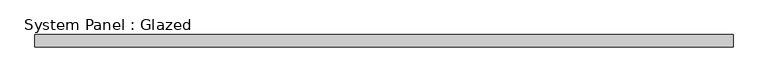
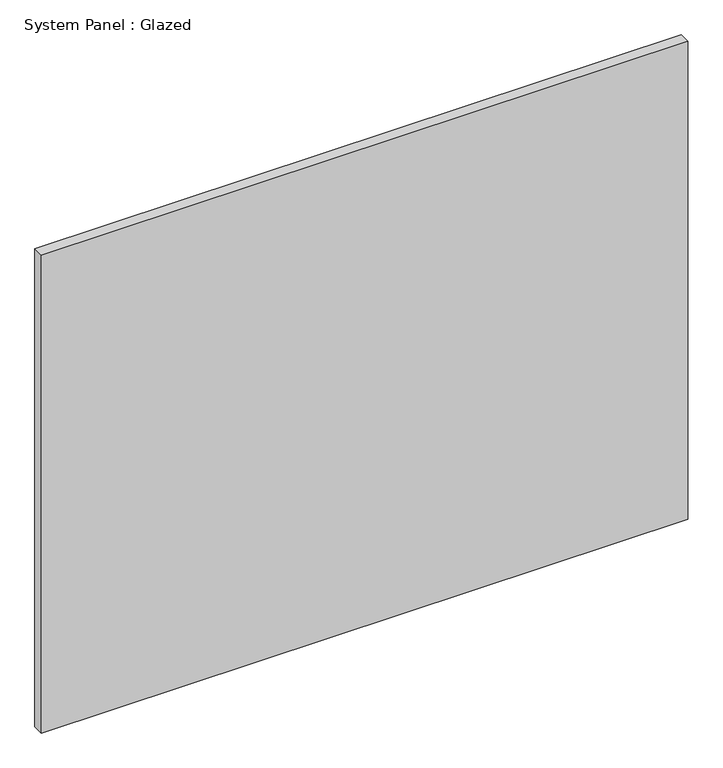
"""IFC4 building model written with IfcOpenShell, lengths in millimetres: plate geometry, System Panel : Glazed."""

import ifcopenshell
import ifcopenshell.guid

model = None  # the IFC model being written
_history = None  # IfcOwnerHistory: only IFC2X3 demands one
_inside = {}  # id of a spatial element -> (the spatial element, [elements in it])
_under = {}  # id of a project, library or spatial element -> (it, [spatial elements below it])
_declared = {}  # id of a project -> (the project, [libraries it declares])
_typed = {}  # id of a type object -> (the type object, [elements of that type])
_made_of = {}  # id of a material, layer set ... -> (it, [elements and type objects made of it])


def new_model(schema):
    """Start an empty IFC model of exactly this schema.

    Asked for "IFC4X3", IfcOpenShell would pick the latest addendum, in which some entities
    have other attributes; the version numbers below select the first issue.
    IFC2X3 requires an IfcOwnerHistory on every rooted entity: one is made here for all.
    """
    global model, _history
    if schema == "IFC4X3":
        model = ifcopenshell.file(schema_version=(4, 3, 0, 0))
    else:
        model = ifcopenshell.file(schema=schema)
    _inside.clear()
    _under.clear()
    _declared.clear()
    _typed.clear()
    _made_of.clear()
    _history = None
    if model.schema == "IFC2X3":
        org = make("IfcOrganization", Name="unknown")
        user = make(
            "IfcPersonAndOrganization",
            ThePerson=make("IfcPerson", FamilyName="unknown"),
            TheOrganization=org,
        )
        app = make(
            "IfcApplication",
            ApplicationDeveloper=org,
            Version="unknown",
            ApplicationFullName="unknown",
            ApplicationIdentifier="unknown",
        )
        _history = make(
            "IfcOwnerHistory",
            OwningUser=user,
            OwningApplication=app,
            ChangeAction="ADDED",
            CreationDate=0,
        )
    return model


def make(cls, **values):
    """One entity of the class cls with the attributes given. An attribute that is None is left unset."""
    return model.create_entity(
        cls, **{name: value for name, value in values.items() if value is not None}
    )


def rooted(cls, **values):
    """An entity with a GlobalId (a new one), such as an element, a storey or a relation."""
    return make(cls, GlobalId=ifcopenshell.guid.new(), OwnerHistory=_history, **values)


def si_unit(unit_type, name, prefix=None):
    """IfcSIUnit, for example si_unit("LENGTHUNIT", "METRE", prefix="MILLI")."""
    return make("IfcSIUnit", UnitType=unit_type, Prefix=prefix, Name=name)


def assignment(units):
    """IfcUnitAssignment: the units of a project."""
    return None if units is None else make("IfcUnitAssignment", Units=units)


def point(xyz):
    """IfcCartesianPoint."""
    return None if xyz is None else make("IfcCartesianPoint", Coordinates=xyz)


def direction(xyz):
    """IfcDirection."""
    return None if xyz is None else make("IfcDirection", DirectionRatios=xyz)


def frame(location, z_axis=None, x_axis=None):
    """IfcAxis2Placement3D, a coordinate frame: its origin and axes. An axis left out is left unset."""
    return make(
        "IfcAxis2Placement3D",
        Location=point(location),
        Axis=direction(z_axis),
        RefDirection=direction(x_axis),
    )


def origin():
    """The frame at (0, 0, 0) with its axes left unset."""
    return frame((0.0, 0.0, 0.0))


def origin_with_axes():
    """The frame at (0, 0, 0) with the z axis (0, 0, 1) and the x axis (1, 0, 0) written out."""
    return frame((0.0, 0.0, 0.0), z_axis=(0.0, 0.0, 1.0), x_axis=(1.0, 0.0, 0.0))


def place(relative_to, where):
    """IfcLocalPlacement: puts the frame where relative to a parent placement (None: the world)."""
    return make(
        "IfcLocalPlacement", PlacementRelTo=relative_to, RelativePlacement=where
    )


def context(
    kind, dimensions, precision=None, world=None, true_north=None, identifier=None
):
    """IfcGeometricRepresentationContext, for example the 3D "Model" context."""
    return make(
        "IfcGeometricRepresentationContext",
        ContextIdentifier=identifier,
        ContextType=kind,
        CoordinateSpaceDimension=dimensions,
        Precision=precision,
        WorldCoordinateSystem=world,
        TrueNorth=true_north,
    )


def project(units=None, contexts=None):
    """IfcProject with its units and contexts."""
    return rooted(
        "IfcProject",
        Name="project",
        RepresentationContexts=contexts,
        UnitsInContext=assignment(units),
    )


def spatial(cls, under=None, at=None, **own):
    """A site, building, storey or space (cls), placed at a placement, below another one or the project."""
    s = rooted(cls, ObjectPlacement=at, **own)
    if under is not None:
        _under.setdefault(under.id(), (under, []))[1].append(s)
    return s


def polyline(points):
    """IfcPolyline through the points."""
    return make("IfcPolyline", Points=[point(p) for p in points])


def outline(outer, holes=None, kind="AREA"):
    """IfcArbitraryClosedProfileDef: a profile drawn as a closed curve; with holes, ...WithVoids."""
    if holes is None:
        return make("IfcArbitraryClosedProfileDef", ProfileType=kind, OuterCurve=outer)
    return make(
        "IfcArbitraryProfileDefWithVoids",
        ProfileType=kind,
        OuterCurve=outer,
        InnerCurves=holes,
    )


def extrude(swept, where, along, depth):
    """IfcExtrudedAreaSolid: the profile swept, set in the frame where, extruded along a direction by depth."""
    return make(
        "IfcExtrudedAreaSolid",
        SweptArea=swept,
        Position=where,
        ExtrudedDirection=direction(along),
        Depth=depth,
    )


def shape(context_of_items, identifier, shape_type, items):
    """IfcShapeRepresentation: the items that make up one representation, for example the "Body"."""
    return make(
        "IfcShapeRepresentation",
        ContextOfItems=context_of_items,
        RepresentationIdentifier=identifier,
        RepresentationType=shape_type,
        Items=items,
    )


def source(mapping_origin, context_of_items, identifier, shape_type, items):
    """IfcRepresentationMap: a shape defined once, which mapped items show again and again."""
    return make(
        "IfcRepresentationMap",
        MappingOrigin=mapping_origin,
        MappedRepresentation=shape(context_of_items, identifier, shape_type, items),
    )


def transform(
    local_origin,
    x_axis=None,
    y_axis=None,
    z_axis=None,
    scale=None,
    scale2=None,
    scale3=None,
    uniform=True,
):
    """IfcCartesianTransformationOperator3D, or its non-uniform kind. x_axis, y_axis, z_axis: its Axis1, 2, 3."""
    if uniform:
        return make(
            "IfcCartesianTransformationOperator3D",
            Axis1=direction(x_axis),
            Axis2=direction(y_axis),
            LocalOrigin=point(local_origin),
            Scale=scale,
            Axis3=direction(z_axis),
        )
    return make(
        "IfcCartesianTransformationOperator3DnonUniform",
        Axis1=direction(x_axis),
        Axis2=direction(y_axis),
        LocalOrigin=point(local_origin),
        Scale=scale,
        Axis3=direction(z_axis),
        Scale2=scale2,
        Scale3=scale3,
    )


def mapped(mapping_source, mapping_target):
    """IfcMappedItem: shows the shape of a source again, moved by a transform."""
    return make(
        "IfcMappedItem", MappingSource=mapping_source, MappingTarget=mapping_target
    )


def made_of(thing, what):
    """Note that an element or type object is made of a material, layer set ...; save() writes the relation."""
    if what is not None:
        _made_of.setdefault(what.id(), (what, []))[1].append(thing)
    return thing


def element(
    cls,
    number,
    at=None,
    inside=None,
    cuts=None,
    type_object=None,
    material=None,
    context=None,
    identifier="Body",
    shape_type=None,
    held_by="IfcProductDefinitionShape",
    body=None,
    shapes=None,
    **own,
):
    """One element of the class cls, such as IfcWall. Its Tag is "e" and its number.

    at: its placement. inside: the storey or other place that contains it. cuts: it is an
    opening in that element (IfcRelVoidsElement). A single representation is given by context,
    identifier, shape_type and body (its items); several are given by shapes. held_by: the class
    of the entity that holds the representations. save() writes the other relations.
    """
    e = rooted(cls, Tag="e%d" % number, ObjectPlacement=at, **own)
    if body is not None:
        shapes = [shape(context, identifier, shape_type, body)]
    if shapes is not None:
        e.Representation = make(held_by, Representations=shapes)
    if inside is not None:
        _inside.setdefault(inside.id(), (inside, []))[1].append(e)
    if cuts is not None:
        rooted(
            "IfcRelVoidsElement", RelatingBuildingElement=cuts, RelatedOpeningElement=e
        )
    if type_object is not None:
        _typed.setdefault(type_object.id(), (type_object, []))[1].append(e)
    return made_of(e, material)


def aggregate(whole, parts):
    """IfcRelAggregates: a whole, such as a stair, and the parts it consists of."""
    return rooted("IfcRelAggregates", RelatingObject=whole, RelatedObjects=parts)


def save(model, path):
    """Write the relations noted so far, then the file.

    IfcRelAggregates (storeys below a building ...), IfcRelContainedInSpatialStructure (elements
    in a storey), IfcRelDefinesByType, IfcRelAssociatesMaterial and IfcRelDeclares: one each for
    every whole, place, type object, material and project.
    """
    for whole, parts in _under.values():
        aggregate(whole, parts)
    for where, things in _inside.values():
        rooted(
            "IfcRelContainedInSpatialStructure",
            RelatedElements=things,
            RelatingStructure=where,
        )
    for kind, things in _typed.values():
        rooted("IfcRelDefinesByType", RelatedObjects=things, RelatingType=kind)
    for what, things in _made_of.values():
        rooted("IfcRelAssociatesMaterial", RelatedObjects=things, RelatingMaterial=what)
    for by, libraries in _declared.values():
        rooted("IfcRelDeclares", RelatingContext=by, RelatedDefinitions=libraries)
    model.write(path)


def system_panel_glazed_fed7d1a5(model_context):
    return source(origin(), model_context, "Body", "SweptSolid", [
        extrude(outline(polyline([(568.75, -40.0), (-568.75, -40.0), (-568.75, -20.0), (568.75, -20.0), (568.75, -40.0)])), origin_with_axes(), (0.0, 0.0, 1.0), 889.0),
    ])


if __name__ == "__main__":
    model = new_model("IFC4")
    model_context = context("Model", 3, world=origin())
    ifc_project = project(units=[si_unit("LENGTHUNIT", "METRE", prefix="MILLI")], contexts=[model_context])
    site = spatial("IfcSite", under=ifc_project)
    building = spatial("IfcBuilding", under=site)
    placement = place(None, origin())
    system_panel_glazed_shape = system_panel_glazed_fed7d1a5(model_context)
    element("IfcPlate", 1, ObjectType="System Panel : Glazed", at=placement, inside=building, context=model_context, shape_type="MappedRepresentation", body=[
        mapped(system_panel_glazed_shape, transform((0.0, 0.0, 0.0), x_axis=(1.0, 0.0, 0.0), y_axis=(0.0, 1.0, 0.0), z_axis=(0.0, 0.0, 1.0))),
    ])
    save(model, "model.ifc")
